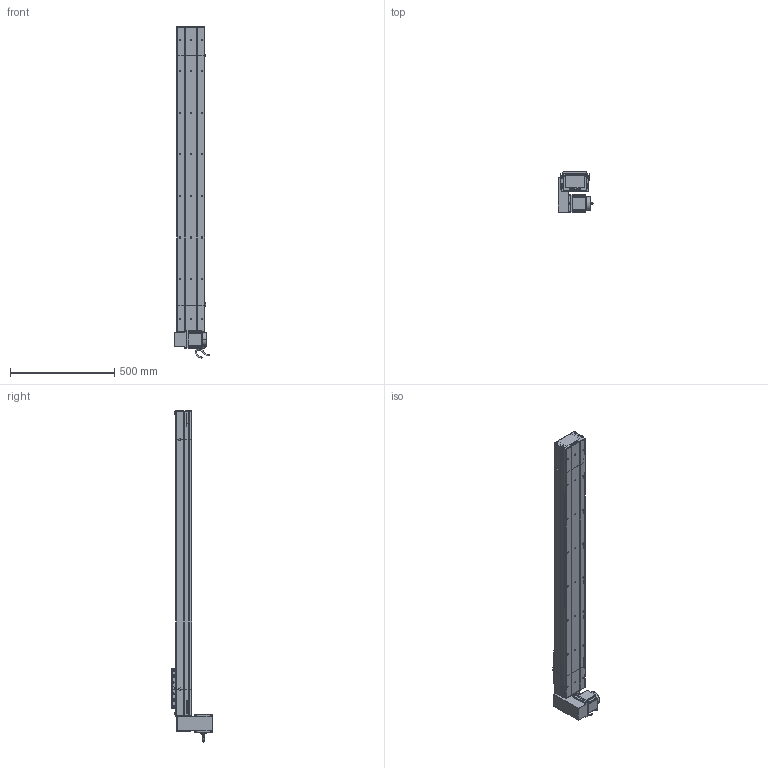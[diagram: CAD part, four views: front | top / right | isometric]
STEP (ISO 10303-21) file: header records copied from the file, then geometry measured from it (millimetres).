
FILE_DESCRIPTION (( 'STEP AP214' ), '1' );
FILE_NAME ('D14 CBH S1200 RU.STEP', '2010-06-30T06:44:17', ( 'Conseil Régional Haute-Normandie' ), ( 'Conseil Régional Haute-Normandie' ), 'SwSTEP 2.0', 'SolidWorks 2010', '' );
FILE_SCHEMA (( 'AUTOMOTIVE_DESIGN' ));
Length unit declared in the file: millimetre
Products named in the file (28): corps CBH S1200; Course CBH S1200; D14 CBH S1200 RU; plaque de bout tail CBH d14; Tail CBH D14 B; couvercle CBH S1200; chariot D14; corps tail  CBH d14 B; couvercle tail CBH D14; vis CHC M5; chariot supérieur D14; Head D14 CBH RU; codeur GMB 90 70 310; corps GMB 90 70 310; avant GMB 90 70 310; Conecteur_Default; Conecteur2_Default; GMB 90 70 310; Support moteur Head D14 CBH; plaque fermeture Head D14 CBH; couvercle Head D14 CBH; vis CHC M7; plaque de bout Head D14 CBH; Vis CHC M8; plaque de maintient CBH D14; corps Head D14 CBH; Head D14 CBH; charriot inférieur D14
Assembly tree (51 placements, depth 4):
  D14 CBH S1200 RU
    chariot D14
      vis CHC M7  x8
      vis CHC M5  x4
      charriot inférieur D14
      chariot supérieur D14
    Course CBH S1200
      couvercle CBH S1200
      corps CBH S1200
    Tail CBH D14 B
      Vis CHC M8  x2
      vis CHC M7  x4
      corps tail  CBH d14 B
      plaque de bout tail CBH d14
      plaque de maintient CBH D14
      couvercle tail CBH D14
    Head D14 CBH RU
      plaque fermeture Head D14 CBH  x3
      Support moteur Head D14 CBH
      Head D14 CBH
        Vis CHC M8  x2
        vis CHC M7  x4
        plaque de bout Head D14 CBH
        couvercle Head D14 CBH
        plaque de maintient CBH D14
        corps Head D14 CBH
      GMB 90 70 310
        corps GMB 90 70 310
        codeur GMB 90 70 310
        Conecteur2_Default
        Conecteur_Default
        avant GMB 90 70 310
Bounding box: 171.5 x 195.75 x 1595.95 mm (x, y, z)
Volume: 5145692.8 mm3; surface area: 1605027.4 mm2
Topology: 51 solids, 51 shells, 2468 faces, 6362 edges, 4182 vertices
Faces by surface type: plane 1371, bspline 538, cylinder 446, torus 61, cone 48, sphere 4
Entity records: 109401 total; most frequent: CARTESIAN_POINT 58190, ORIENTED_EDGE 11020, DIRECTION 8331, EDGE_CURVE 5510, VECTOR 3669, LINE 3669, VERTEX_POINT 3646, EDGE_LOOP 2356
